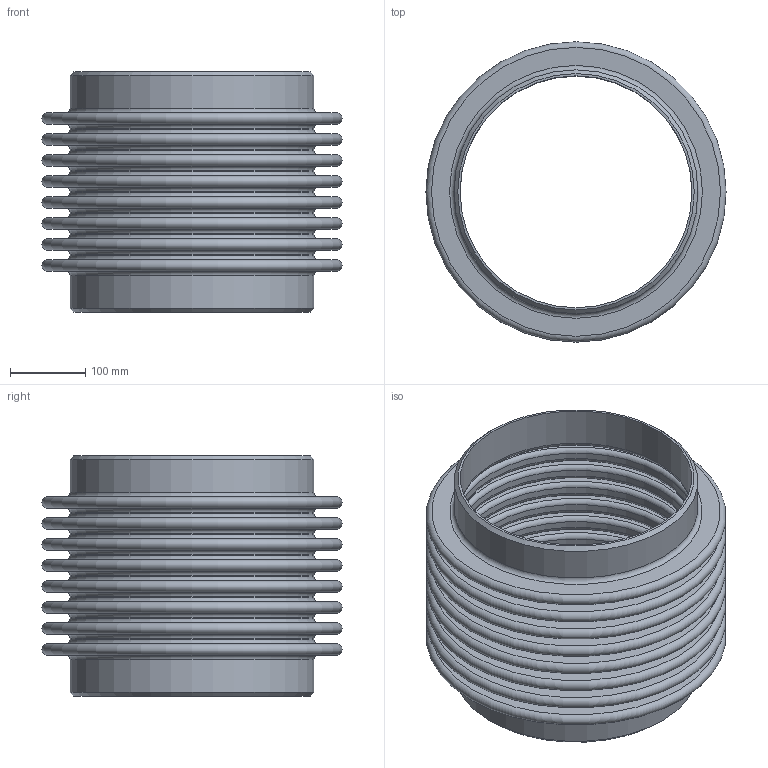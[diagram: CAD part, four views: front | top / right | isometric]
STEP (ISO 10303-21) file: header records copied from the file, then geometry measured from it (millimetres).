
FILE_DESCRIPTION(/* description */ ('D140-02129','CAx-IF Rec.Pracs.---Representation and Presentation of Product Manufacturing Information (PMI)---4.0---2014-10-13'),/* implementation_level */ '2;1');
FILE_NAME(/* name */ '',/* time_stamp */ '2026-04-13T21:49:26+03:00',/* author */ ('DN.RU'),/* organization */ ('DN.RU'),/* preprocessor_version */ 'ST-DEVELOPER v20',/* originating_system */ 'Autodesk Inventor 2025',/* authorisation */ '');
FILE_SCHEMA (('AP242_MANAGED_MODEL_BASED_3D_ENGINEERING_MIM_LF { 1 0 10303 442 1 1 4 }'));
Length unit declared in the file: millimetre
Products named in the file (1): CB-3131-W
Bounding box: 400 x 400 x 320 mm (x, y, z)
Volume: 4326102.4 mm3; surface area: 1875967 mm2
Topology: 1 solids, 1 shells, 316 faces, 783 edges, 522 vertices
Faces by surface type: plane 125, bspline 102, torus 48, cylinder 39, cone 2
Full cylindrical faces by diameter (mm): 309 x2, 317 x7, 325 x9
Entity records: 14068 total; most frequent: CARTESIAN_POINT 6290, ORIENTED_EDGE 1566, DIRECTION 1343, EDGE_CURVE 783, VERTEX_POINT 522, AXIS2_PLACEMENT_3D 520, STYLED_ITEM 386, EDGE_LOOP 371
